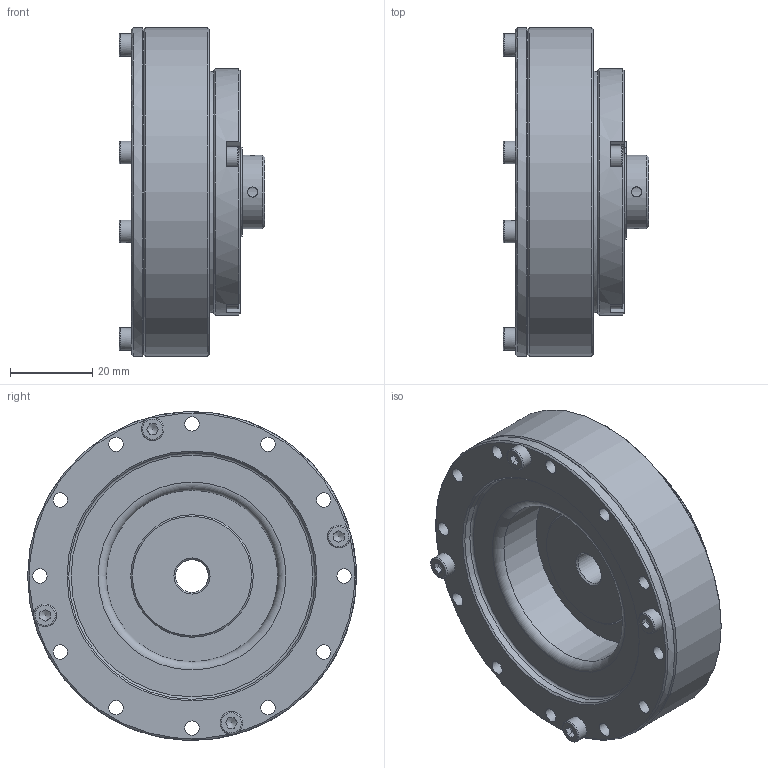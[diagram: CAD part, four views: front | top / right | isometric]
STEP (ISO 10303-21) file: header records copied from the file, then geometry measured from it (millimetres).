
FILE_DESCRIPTION(/* description */ (''),/* implementation_level */ '2;1');
FILE_NAME(/* name */ 'S:\TB00F\研發課二組\機密級\97.\X2\540C4EC151714EAB5340\X0\ (機密級)\H11\欣怡\2023專案追蹤\2.型錄\模型\\X2\5B987DB2\X0\3D檔(NEW)\DSH-PO(14-40)\DSH-17-XX-PO.stp',/* time_stamp */ '2024-10-23T18:25:08+08:00',/* author */ ('bb1128.zheng'),/* organization */ (''),/* preprocessor_version */ 'ST-DEVELOPER v15.2',/* originating_system */ 'Autodesk Inventor 2014',/* authorisation */ '');
FILE_SCHEMA (('AUTOMOTIVE_DESIGN { 1 0 10303 214 3 1 1 }'));
Length unit declared in the file: millimetre
Products named in the file (1): DSH-17-XX-PO
Bounding box: 35.5 x 80 x 80 mm (x, y, z)
Volume: 88003 mm3; surface area: 26775.9 mm2
Topology: 1 solids, 1 shells, 464 faces, 1164 edges, 732 vertices
Faces by surface type: cylinder 188, plane 153, torus 57, cone 43, sphere 23
Full cylindrical faces by diameter (mm): 1.7 x2, 2.459 x18, 3.5 x40, 5.5 x8, 8 x1, 17 x1, 18 x2, 24.5 x2, 27 x1, 29.8 x1, 32.46 x1, 39.66 x1, 41.72 x2, 60 x2, 68 x1, 80 x2
Entity records: 12871 total; most frequent: DIRECTION 2348, CARTESIAN_POINT 2219, ORIENTED_EDGE 1870, AXIS2_PLACEMENT_3D 1056, EDGE_CURVE 889, EDGE_LOOP 688, VERTEX_POINT 617, CIRCLE 591
